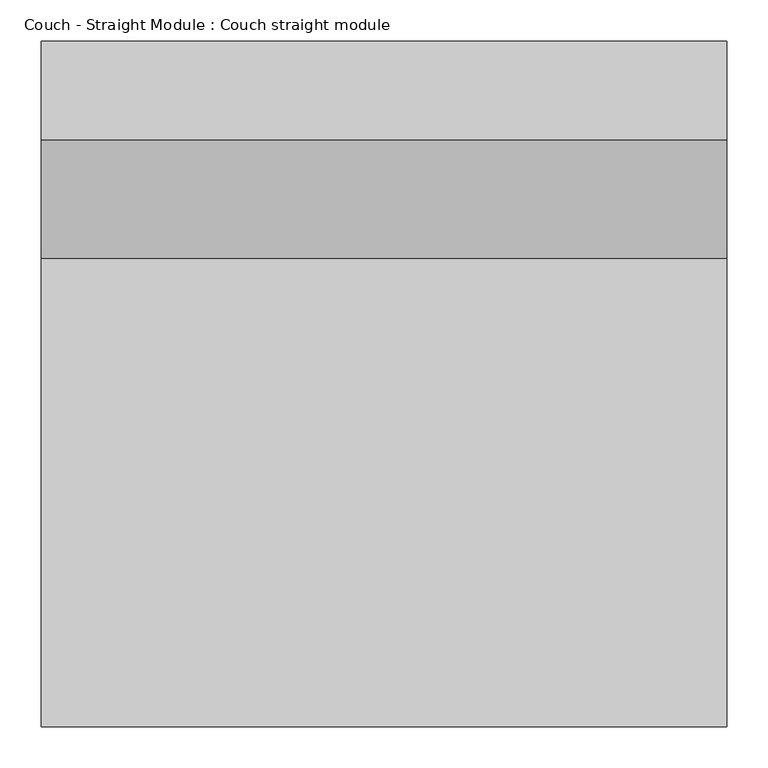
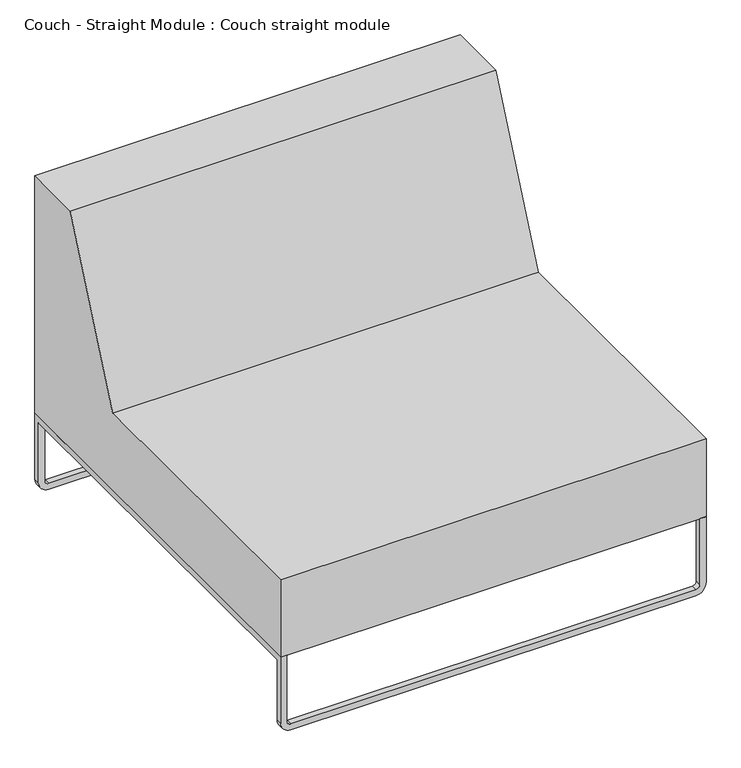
"""IFC4 building model written with IfcOpenShell, lengths in millimetres: furniture geometry, Couch - Straight Module : Couch straight module."""

import ifcopenshell
import ifcopenshell.guid

model = None  # the IFC model being written
_history = None  # IfcOwnerHistory: only IFC2X3 demands one
_inside = {}  # id of a spatial element -> (the spatial element, [elements in it])
_under = {}  # id of a project, library or spatial element -> (it, [spatial elements below it])
_declared = {}  # id of a project -> (the project, [libraries it declares])
_typed = {}  # id of a type object -> (the type object, [elements of that type])
_made_of = {}  # id of a material, layer set ... -> (it, [elements and type objects made of it])


def new_model(schema):
    """Start an empty IFC model of exactly this schema.

    Asked for "IFC4X3", IfcOpenShell would pick the latest addendum, in which some entities
    have other attributes; the version numbers below select the first issue.
    IFC2X3 requires an IfcOwnerHistory on every rooted entity: one is made here for all.
    """
    global model, _history
    if schema == "IFC4X3":
        model = ifcopenshell.file(schema_version=(4, 3, 0, 0))
    else:
        model = ifcopenshell.file(schema=schema)
    _inside.clear()
    _under.clear()
    _declared.clear()
    _typed.clear()
    _made_of.clear()
    _history = None
    if model.schema == "IFC2X3":
        org = make("IfcOrganization", Name="unknown")
        user = make(
            "IfcPersonAndOrganization",
            ThePerson=make("IfcPerson", FamilyName="unknown"),
            TheOrganization=org,
        )
        app = make(
            "IfcApplication",
            ApplicationDeveloper=org,
            Version="unknown",
            ApplicationFullName="unknown",
            ApplicationIdentifier="unknown",
        )
        _history = make(
            "IfcOwnerHistory",
            OwningUser=user,
            OwningApplication=app,
            ChangeAction="ADDED",
            CreationDate=0,
        )
    return model


def make(cls, **values):
    """One entity of the class cls with the attributes given. An attribute that is None is left unset."""
    return model.create_entity(
        cls, **{name: value for name, value in values.items() if value is not None}
    )


def rooted(cls, **values):
    """An entity with a GlobalId (a new one), such as an element, a storey or a relation."""
    return make(cls, GlobalId=ifcopenshell.guid.new(), OwnerHistory=_history, **values)


def si_unit(unit_type, name, prefix=None):
    """IfcSIUnit, for example si_unit("LENGTHUNIT", "METRE", prefix="MILLI")."""
    return make("IfcSIUnit", UnitType=unit_type, Prefix=prefix, Name=name)


def assignment(units):
    """IfcUnitAssignment: the units of a project."""
    return None if units is None else make("IfcUnitAssignment", Units=units)


def point(xyz):
    """IfcCartesianPoint."""
    return None if xyz is None else make("IfcCartesianPoint", Coordinates=xyz)


def direction(xyz):
    """IfcDirection."""
    return None if xyz is None else make("IfcDirection", DirectionRatios=xyz)


def frame(location, z_axis=None, x_axis=None):
    """IfcAxis2Placement3D, a coordinate frame: its origin and axes. An axis left out is left unset."""
    return make(
        "IfcAxis2Placement3D",
        Location=point(location),
        Axis=direction(z_axis),
        RefDirection=direction(x_axis),
    )


def origin():
    """The frame at (0, 0, 0) with its axes left unset."""
    return frame((0.0, 0.0, 0.0))


def place(relative_to, where):
    """IfcLocalPlacement: puts the frame where relative to a parent placement (None: the world)."""
    return make(
        "IfcLocalPlacement", PlacementRelTo=relative_to, RelativePlacement=where
    )


def context(
    kind, dimensions, precision=None, world=None, true_north=None, identifier=None
):
    """IfcGeometricRepresentationContext, for example the 3D "Model" context."""
    return make(
        "IfcGeometricRepresentationContext",
        ContextIdentifier=identifier,
        ContextType=kind,
        CoordinateSpaceDimension=dimensions,
        Precision=precision,
        WorldCoordinateSystem=world,
        TrueNorth=true_north,
    )


def project(units=None, contexts=None):
    """IfcProject with its units and contexts."""
    return rooted(
        "IfcProject",
        Name="project",
        RepresentationContexts=contexts,
        UnitsInContext=assignment(units),
    )


def spatial(cls, under=None, at=None, **own):
    """A site, building, storey or space (cls), placed at a placement, below another one or the project."""
    s = rooted(cls, ObjectPlacement=at, **own)
    if under is not None:
        _under.setdefault(under.id(), (under, []))[1].append(s)
    return s


def polyline(points):
    """IfcPolyline through the points."""
    return make("IfcPolyline", Points=[point(p) for p in points])


def circle_curve(where, radius):
    """IfcCircle in the frame where."""
    return make("IfcCircle", Position=where, Radius=radius)


def outline(outer, holes=None, kind="AREA"):
    """IfcArbitraryClosedProfileDef: a profile drawn as a closed curve; with holes, ...WithVoids."""
    if holes is None:
        return make("IfcArbitraryClosedProfileDef", ProfileType=kind, OuterCurve=outer)
    return make(
        "IfcArbitraryProfileDefWithVoids",
        ProfileType=kind,
        OuterCurve=outer,
        InnerCurves=holes,
    )


def extrude(swept, where, along, depth):
    """IfcExtrudedAreaSolid: the profile swept, set in the frame where, extruded along a direction by depth."""
    return make(
        "IfcExtrudedAreaSolid",
        SweptArea=swept,
        Position=where,
        ExtrudedDirection=direction(along),
        Depth=depth,
    )


def shape(context_of_items, identifier, shape_type, items):
    """IfcShapeRepresentation: the items that make up one representation, for example the "Body"."""
    return make(
        "IfcShapeRepresentation",
        ContextOfItems=context_of_items,
        RepresentationIdentifier=identifier,
        RepresentationType=shape_type,
        Items=items,
    )


def source(mapping_origin, context_of_items, identifier, shape_type, items):
    """IfcRepresentationMap: a shape defined once, which mapped items show again and again."""
    return make(
        "IfcRepresentationMap",
        MappingOrigin=mapping_origin,
        MappedRepresentation=shape(context_of_items, identifier, shape_type, items),
    )


def transform(
    local_origin,
    x_axis=None,
    y_axis=None,
    z_axis=None,
    scale=None,
    scale2=None,
    scale3=None,
    uniform=True,
):
    """IfcCartesianTransformationOperator3D, or its non-uniform kind. x_axis, y_axis, z_axis: its Axis1, 2, 3."""
    if uniform:
        return make(
            "IfcCartesianTransformationOperator3D",
            Axis1=direction(x_axis),
            Axis2=direction(y_axis),
            LocalOrigin=point(local_origin),
            Scale=scale,
            Axis3=direction(z_axis),
        )
    return make(
        "IfcCartesianTransformationOperator3DnonUniform",
        Axis1=direction(x_axis),
        Axis2=direction(y_axis),
        LocalOrigin=point(local_origin),
        Scale=scale,
        Axis3=direction(z_axis),
        Scale2=scale2,
        Scale3=scale3,
    )


def mapped(mapping_source, mapping_target):
    """IfcMappedItem: shows the shape of a source again, moved by a transform."""
    return make(
        "IfcMappedItem", MappingSource=mapping_source, MappingTarget=mapping_target
    )


def made_of(thing, what):
    """Note that an element or type object is made of a material, layer set ...; save() writes the relation."""
    if what is not None:
        _made_of.setdefault(what.id(), (what, []))[1].append(thing)
    return thing


def element(
    cls,
    number,
    at=None,
    inside=None,
    cuts=None,
    type_object=None,
    material=None,
    context=None,
    identifier="Body",
    shape_type=None,
    held_by="IfcProductDefinitionShape",
    body=None,
    shapes=None,
    **own,
):
    """One element of the class cls, such as IfcWall. Its Tag is "e" and its number.

    at: its placement. inside: the storey or other place that contains it. cuts: it is an
    opening in that element (IfcRelVoidsElement). A single representation is given by context,
    identifier, shape_type and body (its items); several are given by shapes. held_by: the class
    of the entity that holds the representations. save() writes the other relations.
    """
    e = rooted(cls, Tag="e%d" % number, ObjectPlacement=at, **own)
    if body is not None:
        shapes = [shape(context, identifier, shape_type, body)]
    if shapes is not None:
        e.Representation = make(held_by, Representations=shapes)
    if inside is not None:
        _inside.setdefault(inside.id(), (inside, []))[1].append(e)
    if cuts is not None:
        rooted(
            "IfcRelVoidsElement", RelatingBuildingElement=cuts, RelatedOpeningElement=e
        )
    if type_object is not None:
        _typed.setdefault(type_object.id(), (type_object, []))[1].append(e)
    return made_of(e, material)


def aggregate(whole, parts):
    """IfcRelAggregates: a whole, such as a stair, and the parts it consists of."""
    return rooted("IfcRelAggregates", RelatingObject=whole, RelatedObjects=parts)


def save(model, path):
    """Write the relations noted so far, then the file.

    IfcRelAggregates (storeys below a building ...), IfcRelContainedInSpatialStructure (elements
    in a storey), IfcRelDefinesByType, IfcRelAssociatesMaterial and IfcRelDeclares: one each for
    every whole, place, type object, material and project.
    """
    for whole, parts in _under.values():
        aggregate(whole, parts)
    for where, things in _inside.values():
        rooted(
            "IfcRelContainedInSpatialStructure",
            RelatedElements=things,
            RelatingStructure=where,
        )
    for kind, things in _typed.values():
        rooted("IfcRelDefinesByType", RelatedObjects=things, RelatingType=kind)
    for what, things in _made_of.values():
        rooted("IfcRelAssociatesMaterial", RelatedObjects=things, RelatingMaterial=what)
    for by, libraries in _declared.values():
        rooted("IfcRelDeclares", RelatingContext=by, RelatedDefinitions=libraries)
    model.write(path)


def plane_surface(at):
    """IfcPlane: the flat surface through the origin of the frame at, square to its z axis."""
    return make("IfcPlane", Position=at)


def cylinder_surface(at, radius):
    """IfcCylindricalSurface: all points at the distance radius from the z axis of the frame at."""
    return make("IfcCylindricalSurface", Position=at, Radius=radius)


def revolved_surface(curve, axis_point, axis_direction):
    """IfcSurfaceOfRevolution: the curve turned about the line through axis_point along axis_direction."""
    return make(
        "IfcSurfaceOfRevolution",
        SweptCurve=make("IfcArbitraryOpenProfileDef", ProfileType="CURVE", Curve=curve),
        AxisPosition=make("IfcAxis1Placement", Location=point(axis_point), Axis=direction(axis_direction)),
    )


def advanced_brep(points, edges, surfaces, faces):
    """IfcAdvancedBrep: a solid bounded by faces that lie on surfaces and meet in shared edges.

    An edge is (start, end): straight between two places in points (the first is 0);
    or (start, end, curve); or (start, end, curve, False) where it runs against its curve.
    A face is (place in surfaces, loops), or (place, loops, False) where it looks against
    its surface's normal. A loop lists edges by number (the first is 1), with a minus sign
    where the edge is run from its end to its start. The first loop is the outer one.
    """
    corners = [point(p) for p in points]
    vertices = [make("IfcVertexPoint", VertexGeometry=c) for c in corners]
    made = []
    for start, end, *more in edges:
        made.append(
            make(
                "IfcEdgeCurve",
                EdgeStart=vertices[start],
                EdgeEnd=vertices[end],
                EdgeGeometry=more[0] if more else make("IfcPolyline", Points=[corners[start], corners[end]]),
                SameSense=more[1] if len(more) > 1 else True,
            )
        )
    hull = []
    for where, loops, *sense in faces:
        bounds = []
        for j, loop in enumerate(loops):
            ring = [make("IfcOrientedEdge", EdgeElement=made[abs(k) - 1], Orientation=k > 0) for k in loop]
            bounds.append(
                make(
                    "IfcFaceOuterBound" if j == 0 else "IfcFaceBound",
                    Bound=make("IfcEdgeLoop", EdgeList=ring),
                    Orientation=True,
                )
            )
        hull.append(make("IfcAdvancedFace", Bounds=bounds, FaceSurface=surfaces[where], SameSense=sense[0] if sense else True))
    return make("IfcAdvancedBrep", Outer=make("IfcClosedShell", CfsFaces=hull))


def couch_straight_module_couch_straight_module_fcc397ea(model_context):
    return source(origin(), model_context, "Body", "SolidModel", [
        advanced_brep(
        [(12.0, 818.0, 143.9538343), (12.0, 818.0, 20.0), (12.0, 830.0, 20.0), (12.0, 830.0, 155.9538343), (12.0, 0.0, 155.9538343), (12.0, 0.0, 20.0), (12.0, 12.0, 20.0), (12.0, 12.0, 143.9538343), (20.0, 830.0, 12.0), (810.0, 830.0, 12.0), (818.0, 830.0, 20.0), (818.0, 830.0, 155.9538343), (830.0, 830.0, 155.9538343), (830.0, 830.0, 20.0), (810.0, 830.0, 0.0), (20.0, 830.0, 0.0), (0.0, 830.0, 20.0), (0.0, 830.0, 155.9538343), (0.0, 818.0, 20.0), (0.0, 818.0, 143.9538343), (0.0, 12.0, 143.9538343), (0.0, 12.0, 20.0), (0.0, 0.0, 20.0), (0.0, 0.0, 155.9538343), (20.0, 818.0, 0.0), (810.0, 818.0, 0.0), (830.0, 818.0, 20.0), (830.0, 818.0, 143.9538343), (818.0, 818.0, 143.9538343), (818.0, 818.0, 20.0), (810.0, 818.0, 12.0), (20.0, 818.0, 12.0), (818.0, 12.0, 143.9538343), (818.0, 12.0, 20.0), (818.0, 0.0, 20.0), (818.0, 0.0, 155.9538343), (830.0, 0.0, 155.9538343), (830.0, 0.0, 20.0), (830.0, 12.0, 20.0), (830.0, 12.0, 143.9538343), (20.0, 0.0, 0.0), (810.0, 0.0, 0.0), (810.0, 0.0, 12.0), (20.0, 0.0, 12.0), (20.0, 12.0, 12.0), (810.0, 12.0, 12.0), (810.0, 12.0, 0.0), (20.0, 12.0, 0.0)],
        [
            (0, 1),
            (1, 2),
            (2, 3),
            (3, 4),
            (4, 5),
            (5, 6),
            (6, 7),
            (7, 0),
            (2, 8, circle_curve(frame((20.0, 830.0, 20.0), z_axis=(0.0, -1.0, 0.0), x_axis=(-1.0, 0.0, 0.0)), 8.0)),
            (8, 9),
            (9, 10, circle_curve(frame((810.0, 830.0, 20.0), z_axis=(0.0, -1.0, 0.0), x_axis=(0.0, 0.0, -1.0)), 8.0)),
            (10, 11),
            (11, 12),
            (12, 13),
            (13, 14, circle_curve(frame((810.0, 830.0, 20.0), z_axis=(0.0, 1.0, 0.0), x_axis=(0.0, 0.0, -1.0)), 20.0)),
            (14, 15),
            (15, 16, circle_curve(frame((20.0, 830.0, 20.0), z_axis=(0.0, 1.0, 0.0), x_axis=(-1.0, 0.0, 0.0)), 20.0)),
            (16, 17),
            (17, 3),
            (16, 18),
            (18, 19),
            (19, 20),
            (20, 21),
            (21, 22),
            (22, 23),
            (23, 17),
            (0, 19),
            (18, 24, circle_curve(frame((20.0, 818.0, 20.0), z_axis=(0.0, -1.0, 0.0), x_axis=(-1.0, 0.0, 0.0)), 20.0)),
            (24, 25),
            (25, 26, circle_curve(frame((810.0, 818.0, 20.0), z_axis=(0.0, -1.0, 0.0), x_axis=(0.0, 0.0, -1.0)), 20.0)),
            (26, 27),
            (27, 28),
            (28, 29),
            (29, 30, circle_curve(frame((810.0, 818.0, 20.0), z_axis=(0.0, 1.0, 0.0), x_axis=(0.0, 0.0, -1.0)), 8.0)),
            (30, 31),
            (31, 1, circle_curve(frame((20.0, 818.0, 20.0), z_axis=(0.0, 1.0, 0.0), x_axis=(-1.0, 0.0, 0.0)), 8.0)),
            (31, 8),
            (15, 24),
            (30, 9),
            (14, 25),
            (29, 10),
            (13, 26),
            (28, 32),
            (32, 33),
            (33, 34),
            (34, 35),
            (35, 11),
            (12, 36),
            (36, 37),
            (37, 38),
            (38, 39),
            (39, 27),
            (4, 23),
            (22, 40, circle_curve(frame((20.0, 0.0, 20.0), z_axis=(0.0, -1.0, 0.0), x_axis=(-1.0, 0.0, 0.0)), 20.0)),
            (40, 41),
            (41, 37, circle_curve(frame((810.0, 0.0, 20.0), z_axis=(0.0, -1.0, 0.0), x_axis=(0.0, 0.0, -1.0)), 20.0)),
            (36, 35),
            (34, 42, circle_curve(frame((810.0, 0.0, 20.0), z_axis=(0.0, 1.0, 0.0), x_axis=(0.0, 0.0, -1.0)), 8.0)),
            (42, 43),
            (43, 5, circle_curve(frame((20.0, 0.0, 20.0), z_axis=(0.0, 1.0, 0.0), x_axis=(-1.0, 0.0, 0.0)), 8.0)),
            (7, 20),
            (6, 44, circle_curve(frame((20.0, 12.0, 20.0), z_axis=(0.0, -1.0, 0.0), x_axis=(-1.0, 0.0, 0.0)), 8.0)),
            (44, 45),
            (45, 33, circle_curve(frame((810.0, 12.0, 20.0), z_axis=(0.0, -1.0, 0.0), x_axis=(0.0, 0.0, -1.0)), 8.0)),
            (32, 39),
            (38, 46, circle_curve(frame((810.0, 12.0, 20.0), z_axis=(0.0, 1.0, 0.0), x_axis=(0.0, 0.0, -1.0)), 20.0)),
            (46, 47),
            (47, 21, circle_curve(frame((20.0, 12.0, 20.0), z_axis=(0.0, 1.0, 0.0), x_axis=(-1.0, 0.0, 0.0)), 20.0)),
            (43, 44),
            (47, 40),
            (42, 45),
            (46, 41),
        ],
        [
            plane_surface(frame((12.0, 818.0, 143.9538343), z_axis=(1.0, 0.0, 0.0), x_axis=(0.0, 0.0, -1.0))),
            plane_surface(frame((12.0, 830.0, 143.9538343), z_axis=(0.0, 1.0, 0.0), x_axis=(0.0, 0.0, -1.0))),
            plane_surface(frame((0.0, 830.0, 143.9538343), z_axis=(-1.0, 0.0, 0.0), x_axis=(0.0, 0.0, -1.0))),
            plane_surface(frame((0.0, 818.0, 143.9538343), z_axis=(0.0, -1.0, 0.0), x_axis=(0.0, 0.0, -1.0))),
            revolved_surface(polyline([(12.0, 818.0, 20.0), (12.0, 830.0, 20.0)]), (20.0, 818.0, 20.0), (0.0, -1.0, 0.0)),
            cylinder_surface(frame((20.0, 818.0, 20.0), z_axis=(0.0, -1.0, 0.0), x_axis=(-1.0, 0.0, 0.0)), 20.0),
            plane_surface(frame((20.0, 818.0, 12.0), z_axis=(0.0, 0.0, 1.0), x_axis=(1.0, 0.0, 0.0))),
            plane_surface(frame((20.0, 830.0, 0.0), z_axis=(0.0, 0.0, -1.0), x_axis=(1.0, 0.0, 0.0))),
            revolved_surface(polyline([(810.0, 818.0, 12.0), (810.0, 830.0, 12.0)]), (810.0, 818.0, 20.0), (0.0, -1.0, 0.0)),
            cylinder_surface(frame((810.0, 818.0, 20.0), z_axis=(0.0, -1.0, 0.0), x_axis=(0.0, 0.0, -1.0)), 20.0),
            plane_surface(frame((818.0, 818.0, 20.0), z_axis=(-1.0, 0.0, 0.0), x_axis=(0.0, 0.0, 1.0))),
            plane_surface(frame((830.0, 830.0, 20.0), z_axis=(1.0, 0.0, 0.0), x_axis=(0.0, 0.0, 1.0))),
            plane_surface(frame((0.0, 0.0, 155.9538343), z_axis=(0.0, -1.0, 0.0), x_axis=(-1.0, 0.0, 0.0))),
            plane_surface(frame((0.0, 830.0, 155.9538343), z_axis=(0.0, 0.0, 1.0), x_axis=(0.0, -1.0, 0.0))),
            plane_surface(frame((12.0, 830.0, 143.9538343), z_axis=(0.0, 0.0, -1.0), x_axis=(0.0, -1.0, 0.0))),
            plane_surface(frame((12.0, 12.0, 143.9538343), z_axis=(0.0, 1.0, 0.0), x_axis=(0.0, 0.0, -1.0))),
            revolved_surface(polyline([(12.0, 0.0, 20.0), (12.0, 12.0, 20.0)]), (20.0, 0.0, 20.0), (0.0, -1.0, 0.0)),
            cylinder_surface(frame((20.0, 0.0, 20.0), z_axis=(0.0, -1.0, 0.0), x_axis=(-1.0, 0.0, 0.0)), 20.0),
            plane_surface(frame((20.0, 0.0, 12.0), z_axis=(0.0, 0.0, 1.0), x_axis=(1.0, 0.0, 0.0))),
            plane_surface(frame((20.0, 12.0, 0.0), z_axis=(0.0, 0.0, -1.0), x_axis=(1.0, 0.0, 0.0))),
            revolved_surface(polyline([(810.0, 0.0, 12.0), (810.0, 12.0, 12.0)]), (810.0, 0.0, 20.0), (0.0, -1.0, 0.0)),
            cylinder_surface(frame((810.0, 0.0, 20.0), z_axis=(0.0, -1.0, 0.0), x_axis=(0.0, 0.0, -1.0)), 20.0),
            plane_surface(frame((818.0, 830.0, 155.9538343), z_axis=(0.0, 0.0, 1.0), x_axis=(0.0, -1.0, 0.0))),
            plane_surface(frame((830.0, 830.0, 143.9538343), z_axis=(0.0, 0.0, -1.0), x_axis=(0.0, -1.0, 0.0))),
        ],
        [
            (0, [[1, 2, 3, 4, 5, 6, 7, 8]]),
            (1, [[9, 10, 11, 12, 13, 14, 15, 16, 17, 18, 19, -3]]),
            (2, [[20, 21, 22, 23, 24, 25, 26, -18]]),
            (3, [[-1, 27, -21, 28, 29, 30, 31, 32, 33, 34, 35, 36]]),
            (4, [[-2, -36, 37, -9]]),
            (5, [[-17, 38, -28, -20]]),
            (6, [[-10, -37, -35, 39]]),
            (7, [[-16, 40, -29, -38]]),
            (8, [[-11, -39, -34, 41]]),
            (9, [[-15, 42, -30, -40]]),
            (10, [[-12, -41, -33, 43, 44, 45, 46, 47]]),
            (11, [[-14, 48, 49, 50, 51, 52, -31, -42]]),
            (12, [[53, -25, 54, 55, 56, -49, 57, -46, 58, 59, 60, -5]]),
            (13, [[-19, -26, -53, -4]]),
            (14, [[-27, -8, 61, -22]]),
            (15, [[-7, 62, 63, 64, -44, 65, -51, 66, 67, 68, -23, -61]]),
            (16, [[-6, -60, 69, -62]]),
            (17, [[-68, 70, -54, -24]]),
            (18, [[-63, -69, -59, 71]]),
            (19, [[-67, 72, -55, -70]]),
            (20, [[-64, -71, -58, -45]]),
            (21, [[-66, -50, -56, -72]]),
            (22, [[-13, -47, -57, -48]]),
            (23, [[-43, -32, -52, -65]]),
        ],
    ),
        extrude(outline(polyline([(0.0, 315.9538343), (566.5217391, 315.9538343), (710.0, 645.9538343), (830.0, 645.9538343), (830.0, 155.9538343), (0.0, 155.9538343), (0.0, 315.9538343)])), frame((0.0, 0.0, 0.0), z_axis=(1.0, 0.0, 0.0), x_axis=(0.0, 1.0, 0.0)), (0.0, 0.0, 1.0), 830.0),
    ])


if __name__ == "__main__":
    model = new_model("IFC4")
    model_context = context("Model", 3, world=origin())
    ifc_project = project(units=[si_unit("LENGTHUNIT", "METRE", prefix="MILLI")], contexts=[model_context])
    site = spatial("IfcSite", under=ifc_project)
    building = spatial("IfcBuilding", under=site)
    placement = place(None, origin())
    couch_straight_module_couch_straight_module_shape = couch_straight_module_couch_straight_module_fcc397ea(model_context)
    element("IfcFurniture", 1, ObjectType="Couch - Straight Module : Couch straight module", at=placement, inside=building, context=model_context, shape_type="MappedRepresentation", body=[
        mapped(couch_straight_module_couch_straight_module_shape, transform((0.0, 0.0, 0.0), x_axis=(1.0, 0.0, 0.0), y_axis=(0.0, 1.0, 0.0), z_axis=(0.0, 0.0, 1.0))),
    ])
    save(model, "model.ifc")
